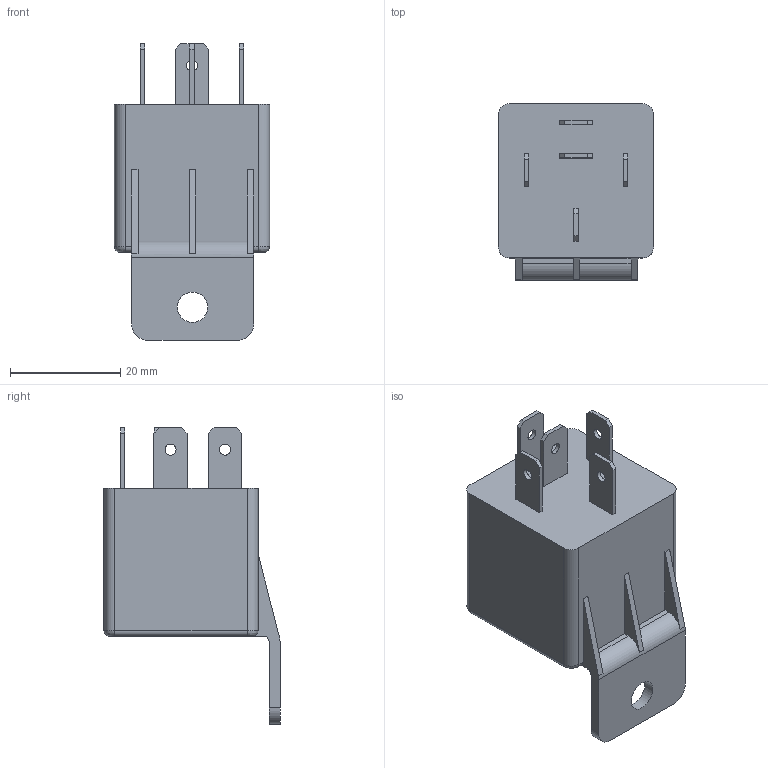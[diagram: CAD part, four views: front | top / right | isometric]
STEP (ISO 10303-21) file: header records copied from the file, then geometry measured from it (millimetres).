
FILE_DESCRIPTION(/* description */ (''),/* implementation_level */ '2;1');
FILE_NAME(/* name */ 'Relay.stp',/* time_stamp */ '2024-02-17T21:54:54+11:00',/* author */ ('sebas'),/* organization */ (''),/* preprocessor_version */ 'ST-DEVELOPER v19.2',/* originating_system */ 'Autodesk Inventor 2024',/* authorisation */ '');
FILE_SCHEMA (('AUTOMOTIVE_DESIGN { 1 0 10303 214 3 1 1 }'));
Length unit declared in the file: millimetre
Products named in the file (1): Bosch 0 332 209 150
Bounding box: 28.2 x 32 x 53.9 mm (x, y, z)
Volume: 22227.7 mm3; surface area: 6240.6 mm2
Topology: 1 solids, 1 shells, 339 faces, 922 edges, 612 vertices
Faces by surface type: bspline 169, plane 151, cylinder 19
Full cylindrical faces by diameter (mm): 2 x5, 5.5 x1
Entity records: 12231 total; most frequent: CARTESIAN_POINT 4659, ORIENTED_EDGE 1844, DIRECTION 980, EDGE_CURVE 922, VERTEX_POINT 612, LINE 546, VECTOR 546, EDGE_LOOP 378
